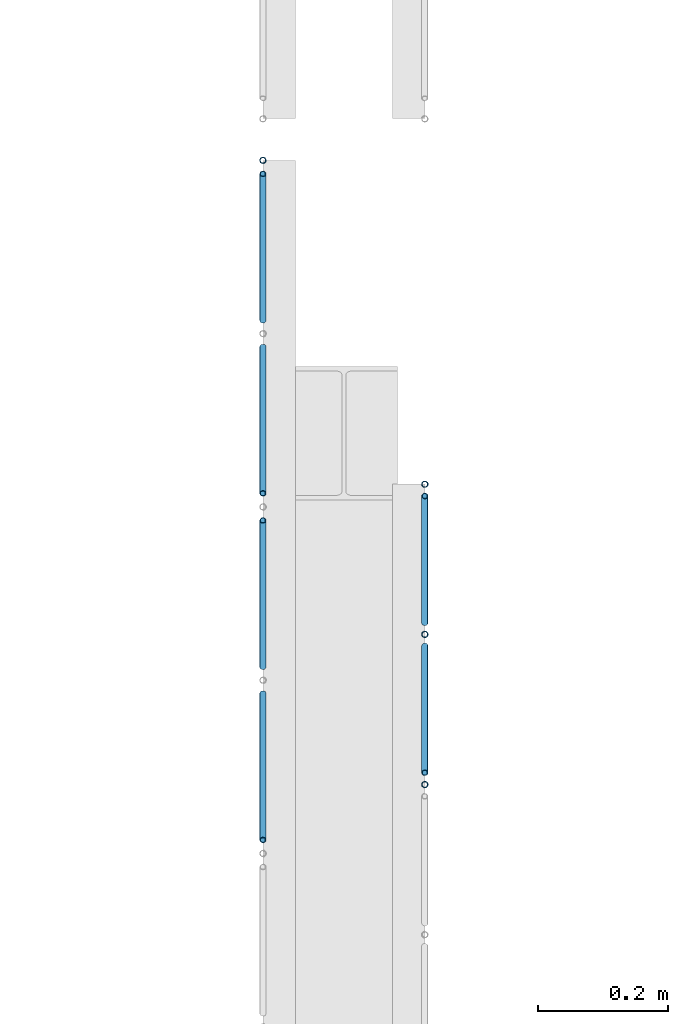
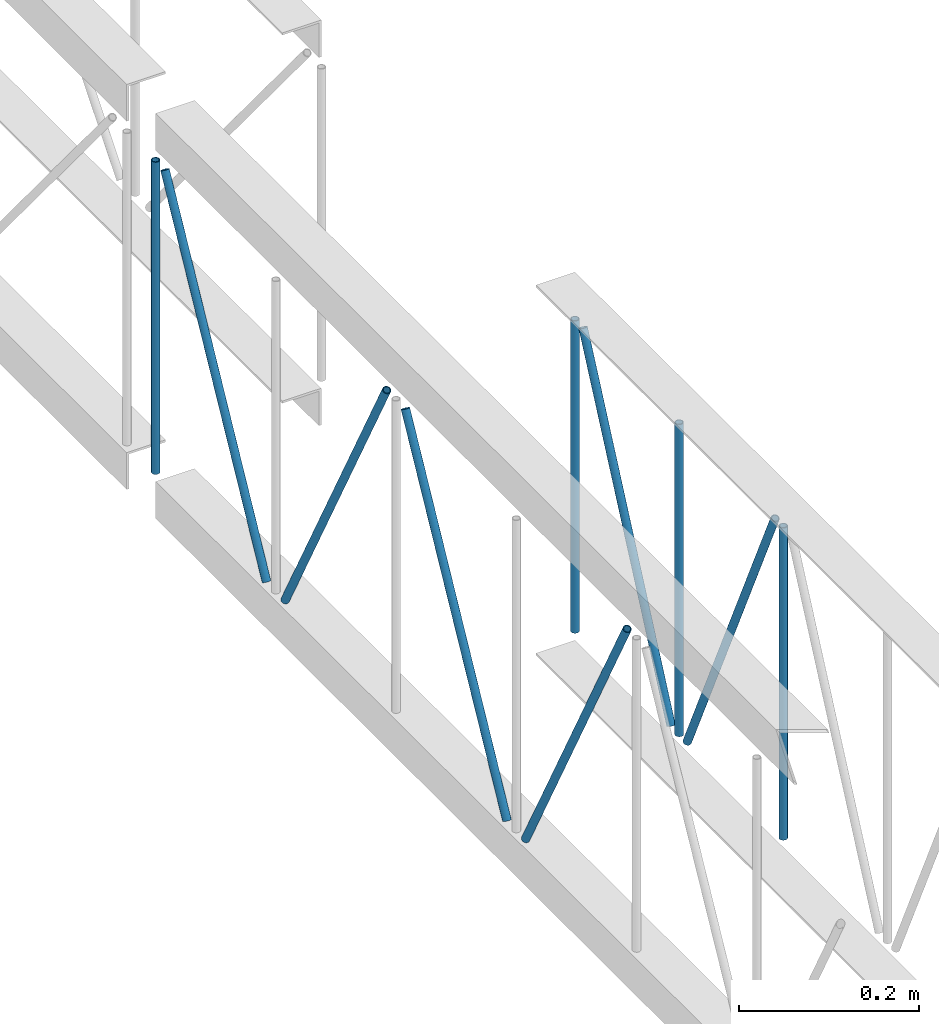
# One storey, part 42 of 153: 10 members, 2 elements without a shape of their own.
"""IFC4 building model written with IfcOpenShell, lengths in metres."""

from ifc_helpers import new_model, entity, si_unit, converted_unit, derived_unit, direction, frame, origin, place, context, subcontext, project, spatial, arc, indexed_curve, outline, extrude, source, transform, mapped, material, type_object, type_shapes, element, aggregate, save


model = new_model("IFC4")

# Units and contexts
model_context = context("Model", 3, precision=1e-05, world=origin(), true_north=direction((6.123031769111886e-17, 1.0)))
body_context = subcontext(model_context, "Body", "Model", "MODEL_VIEW")
ifc_project = project(units=[si_unit("LENGTHUNIT", "METRE"), si_unit("AREAUNIT", "SQUARE_METRE"), si_unit("VOLUMEUNIT", "CUBIC_METRE"), converted_unit("PLANEANGLEUNIT", "DEGREE", entity("IfcRatioMeasure", 0.017453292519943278), si_unit("PLANEANGLEUNIT", "RADIAN"), dimensions=[0, 0, 0, 0, 0, 0, 0]), si_unit("MASSUNIT", "GRAM", prefix="KILO"), derived_unit("MASSDENSITYUNIT", [(si_unit("MASSUNIT", "GRAM", prefix="KILO"), 1), (si_unit("LENGTHUNIT", "METRE"), -3)]), derived_unit("MOMENTOFINERTIAUNIT", [(si_unit("LENGTHUNIT", "METRE"), 4)]), si_unit("TIMEUNIT", "SECOND"), si_unit("FREQUENCYUNIT", "HERTZ"), si_unit("THERMODYNAMICTEMPERATUREUNIT", "DEGREE_CELSIUS"), derived_unit("THERMALTRANSMITTANCEUNIT", [(si_unit("MASSUNIT", "GRAM", prefix="KILO"), 1), (si_unit("THERMODYNAMICTEMPERATUREUNIT", "KELVIN"), -1), (si_unit("TIMEUNIT", "SECOND"), -3)]), derived_unit("VOLUMETRICFLOWRATEUNIT", [(si_unit("LENGTHUNIT", "METRE"), 3), (si_unit("TIMEUNIT", "SECOND"), -1)]), derived_unit("MASSFLOWRATEUNIT", [(si_unit("MASSUNIT", "GRAM", prefix="KILO"), 1), (si_unit("TIMEUNIT", "SECOND"), -1)]), derived_unit("ROTATIONALFREQUENCYUNIT", [(si_unit("TIMEUNIT", "SECOND"), -1)]), si_unit("ELECTRICCURRENTUNIT", "AMPERE"), si_unit("ELECTRICVOLTAGEUNIT", "VOLT"), si_unit("POWERUNIT", "WATT"), si_unit("FORCEUNIT", "NEWTON", prefix="KILO"), si_unit("ILLUMINANCEUNIT", "LUX"), si_unit("LUMINOUSFLUXUNIT", "LUMEN"), si_unit("LUMINOUSINTENSITYUNIT", "CANDELA"), derived_unit("USERDEFINED", [(si_unit("MASSUNIT", "GRAM", prefix="KILO"), -1), (si_unit("LENGTHUNIT", "METRE"), -2), (si_unit("TIMEUNIT", "SECOND"), 3), (si_unit("LUMINOUSFLUXUNIT", "LUMEN"), 1)]), derived_unit("SOUNDPOWERUNIT", [(si_unit("MASSUNIT", "GRAM", prefix="KILO"), 1), (si_unit("LENGTHUNIT", "METRE"), 2), (si_unit("TIMEUNIT", "SECOND"), -3)]), derived_unit("SOUNDPRESSUREUNIT", [(si_unit("MASSUNIT", "GRAM", prefix="KILO"), 1), (si_unit("LENGTHUNIT", "METRE"), -1), (si_unit("TIMEUNIT", "SECOND"), -2)]), derived_unit("LINEARVELOCITYUNIT", [(si_unit("LENGTHUNIT", "METRE"), 1), (si_unit("TIMEUNIT", "SECOND"), -1)]), si_unit("PRESSUREUNIT", "PASCAL"), derived_unit("USERDEFINED", [(si_unit("LENGTHUNIT", "METRE"), -2), (si_unit("MASSUNIT", "GRAM", prefix="KILO"), 1), (si_unit("TIMEUNIT", "SECOND"), -2)]), derived_unit("LINEARFORCEUNIT", [(si_unit("MASSUNIT", "GRAM", prefix="KILO"), 1), (si_unit("LENGTHUNIT", "METRE"), 1), (si_unit("TIMEUNIT", "SECOND"), -2), (si_unit("LENGTHUNIT", "METRE"), -1)]), derived_unit("PLANARFORCEUNIT", [(si_unit("MASSUNIT", "GRAM", prefix="KILO"), 1), (si_unit("LENGTHUNIT", "METRE"), 1), (si_unit("TIMEUNIT", "SECOND"), -2), (si_unit("LENGTHUNIT", "METRE"), -2)])], contexts=[model_context])

# Site, building, storey
site_placement = place(None, origin())
site = spatial("IfcSite", under=ifc_project, at=site_placement, Name="Superficie", CompositionType="ELEMENT")
building_placement = place(site_placement, origin())
building = spatial("IfcBuilding", under=site, at=building_placement, CompositionType="ELEMENT")
storey_placement = place(building_placement, frame((0.0, 0.0, 3.5999999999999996)))
storey = spatial("IfcBuildingStorey", under=building, at=storey_placement, Name="Nivel 1", CompositionType="ELEMENT", Elevation=3.5999999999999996)

# Assembly, member
assembly_1_placement = place(storey_placement, origin())
assembly_1 = element("IfcElementAssembly", 1, at=assembly_1_placement, inside=storey, Name="Viga de celosia 13:Viga de celosia 13", ObjectType="Viga de celosia 13:Viga de celosia 13", AssemblyPlace="NOTDEFINED", PredefinedType="TRUSS")
ifc_material = material(Name="Metal - Calibre delgado", Category="Metal")
member_type_1 = type_object("IfcMemberType", Name="HSS-Tubo estructural redondo:HSS 0.01", PredefinedType="BRACE", material=ifc_material)
shared_shape_1 = source(origin(), body_context, "Body", "SweptSolid", [
    extrude(outline(indexed_curve([(-0.005000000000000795, 7.502054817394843e-18), (-9.800269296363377e-18, -0.005000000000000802), (0.005000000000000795, -7.502054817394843e-18), (8.07772287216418e-18, 0.005000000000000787)], segments=[arc(1, 2, 3), arc(3, 4, 1)], self_intersect=False), holes=[indexed_curve([(0.003999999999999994, 7.222511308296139e-17), (6.910645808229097e-17, -0.004000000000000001), (-0.003999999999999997, -1.8650054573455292e-17), (-2.9156497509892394e-17, 0.003999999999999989)], segments=[arc(1, 2, 3), arc(3, 4, 1)], self_intersect=False)]), frame((-0.21200000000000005, 0.0, 0.0), z_axis=(1.0, 0.0, 0.0), x_axis=(0.0, 1.0, 0.0)), (0.0, 0.0, 1.0), 0.4240000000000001),
])
type_shapes(member_type_1, [shared_shape_1])
member_1_placement = place(assembly_1_placement, frame((-3.913200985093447, -9.198502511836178, 0.25), z_axis=(0.0, 1.0, 0.0), x_axis=(0.0, 0.0, 1.0)))
member_1 = element("IfcMember", 2, at=member_1_placement, type_object=member_type_1, material=ifc_material, Name="HSS-Tubo estructural redondo:HSS 0.01", ObjectType="HSS-Tubo estructural redondo:HSS 0.01", PredefinedType="BRACE", context=body_context, shape_type="MappedRepresentation", body=[
    mapped(shared_shape_1, transform((0.0, 0.0, 0.0), scale=1.0)),
])

# Assembly, members
assembly_2_placement = place(storey_placement, origin())
assembly_2 = element("IfcElementAssembly", 3, at=assembly_2_placement, inside=storey, Name="Viga de celosia 13:Viga de celosia 13", ObjectType="Viga de celosia 13:Viga de celosia 13", AssemblyPlace="NOTDEFINED", PredefinedType="TRUSS")
member_type_2 = type_object("IfcMemberType", Name="HSS-Tubo estructural redondo:HSS 0.01", PredefinedType="BRACE", material=ifc_material)
shared_shape_2 = source(origin(), body_context, "Body", "SweptSolid", [
    extrude(outline(indexed_curve([(-0.005000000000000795, 2.0824731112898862e-17), (-2.3122945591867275e-17, -0.005000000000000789), (0.005000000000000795, -2.08247311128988e-17), (2.14003991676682e-17, 0.005000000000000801)], segments=[arc(1, 2, 3), arc(3, 4, 1)], self_intersect=False), holes=[indexed_curve([(0.003999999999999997, -1.3094283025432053e-17), (-1.531427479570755e-18, -0.003999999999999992), (-0.004, 4.0098531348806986e-17), (4.1481388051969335e-17, 0.0039999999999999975)], segments=[arc(1, 2, 3), arc(3, 4, 1)], self_intersect=False)]), frame((-0.21200000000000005, 0.0, 0.0), z_axis=(1.0, 0.0, 0.0), x_axis=(0.0, -1.0, 0.0)), (0.0, 0.0, 1.0), 0.4240000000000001),
])
type_shapes(member_type_2, [shared_shape_2])
member_2_placement = place(assembly_2_placement, frame((-3.6632009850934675, -10.162073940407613, 0.25), z_axis=(0.0, 1.0, 0.0), x_axis=(0.0, 0.0, 1.0)))
member_2 = element("IfcMember", 4, at=member_2_placement, type_object=member_type_2, material=ifc_material, Name="HSS-Tubo estructural redondo:HSS 0.01", ObjectType="HSS-Tubo estructural redondo:HSS 0.01", PredefinedType="BRACE", context=body_context, shape_type="MappedRepresentation", body=[
    mapped(shared_shape_2, transform((0.0, 0.0, 0.0), scale=1.0)),
])
member_3_placement = place(assembly_2_placement, frame((-3.6632009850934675, -9.930288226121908, 0.25), z_axis=(0.0, 1.0, 0.0), x_axis=(0.0, 0.0, 1.0)))
member_3 = element("IfcMember", 5, at=member_3_placement, type_object=member_type_2, material=ifc_material, Name="HSS-Tubo estructural redondo:HSS 0.01", ObjectType="HSS-Tubo estructural redondo:HSS 0.01", PredefinedType="BRACE", context=body_context, shape_type="MappedRepresentation", body=[
    mapped(shared_shape_2, transform((0.0, 0.0, 0.0), scale=1.0)),
])
member_4_placement = place(assembly_2_placement, frame((-3.6632009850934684, -9.698502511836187, 0.25), z_axis=(0.0, 1.0, 0.0), x_axis=(0.0, 0.0, 1.0)))
member_4 = element("IfcMember", 6, at=member_4_placement, type_object=member_type_2, material=ifc_material, Name="HSS-Tubo estructural redondo:HSS 0.01", ObjectType="HSS-Tubo estructural redondo:HSS 0.01", PredefinedType="BRACE", context=body_context, shape_type="MappedRepresentation", body=[
    mapped(shared_shape_2, transform((0.0, 0.0, 0.0), scale=1.0)),
])

# Member
member_type_3 = type_object("IfcMemberType", Name="HSS-Tubo estructural redondo:HSS 0.01", PredefinedType="BRACE", material=ifc_material)
shared_shape_3 = source(origin(), body_context, "Body", "SweptSolid", [
    extrude(outline(indexed_curve([(-0.005000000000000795, 7.502054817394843e-18), (-9.800269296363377e-18, -0.005000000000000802), (0.005000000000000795, -7.502054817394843e-18), (8.07772287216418e-18, 0.005000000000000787)], segments=[arc(1, 2, 3), arc(3, 4, 1)], self_intersect=False), holes=[indexed_curve([(0.003999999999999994, 7.222511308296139e-17), (6.910645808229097e-17, -0.004000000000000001), (-0.003999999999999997, -1.8650054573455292e-17), (-2.9156497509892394e-17, 0.003999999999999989)], segments=[arc(1, 2, 3), arc(3, 4, 1)], self_intersect=False)]), frame((-0.23950000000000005, 0.0, 0.0), z_axis=(1.0, 0.0, 0.0), x_axis=(0.0, 1.0, 0.0)), (0.0, 0.0, 1.0), 0.4790000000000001),
])
type_shapes(member_type_3, [shared_shape_3])
member_5_placement = place(assembly_1_placement, frame((-3.9132009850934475, -10.13475251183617, 0.2500000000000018), z_axis=(0.0, -0.8817419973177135, -0.4717319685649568), x_axis=(0.0, 0.4717319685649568, -0.8817419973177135)))
member_5 = element("IfcMember", 7, at=member_5_placement, type_object=member_type_3, material=ifc_material, Name="HSS-Tubo estructural redondo:HSS 0.01", ObjectType="HSS-Tubo estructural redondo:HSS 0.01", PredefinedType="BRACE", context=body_context, shape_type="MappedRepresentation", body=[
    mapped(shared_shape_3, transform((0.0, 0.0, 0.0), scale=1.0)),
])

member_6_placement = place(assembly_1_placement, frame((-3.9132009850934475, -9.867252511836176, 0.25), z_axis=(0.0, 0.881741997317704, -0.47173196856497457), x_axis=(0.0, 0.47173196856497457, 0.881741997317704)))
member_6 = element("IfcMember", 8, at=member_6_placement, type_object=member_type_3, material=ifc_material, Name="HSS-Tubo estructural redondo:HSS 0.01", ObjectType="HSS-Tubo estructural redondo:HSS 0.01", PredefinedType="BRACE", context=body_context, shape_type="MappedRepresentation", body=[
    mapped(shared_shape_3, transform((0.0, 0.0, 0.0), scale=1.0)),
])

member_7_placement = place(assembly_1_placement, frame((-3.9132009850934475, -9.599752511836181, 0.24999999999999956), z_axis=(0.0, -0.881741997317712, -0.47173196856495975), x_axis=(0.0, 0.47173196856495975, -0.881741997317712)))
member_7 = element("IfcMember", 9, at=member_7_placement, type_object=member_type_3, material=ifc_material, Name="HSS-Tubo estructural redondo:HSS 0.01", ObjectType="HSS-Tubo estructural redondo:HSS 0.01", PredefinedType="BRACE", context=body_context, shape_type="MappedRepresentation", body=[
    mapped(shared_shape_3, transform((0.0, 0.0, 0.0), scale=1.0)),
])

member_8_placement = place(assembly_1_placement, frame((-3.9132009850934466, -9.33225251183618, 0.25), z_axis=(0.0, 0.8817419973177, -0.471731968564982), x_axis=(0.0, 0.471731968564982, 0.8817419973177)))
member_8 = element("IfcMember", 10, at=member_8_placement, type_object=member_type_3, material=ifc_material, Name="HSS-Tubo estructural redondo:HSS 0.01", ObjectType="HSS-Tubo estructural redondo:HSS 0.01", PredefinedType="BRACE", context=body_context, shape_type="MappedRepresentation", body=[
    mapped(shared_shape_3, transform((0.0, 0.0, 0.0), scale=1.0)),
])

aggregate(assembly_1, [member_1, member_5, member_6, member_7, member_8])

member_type_4 = type_object("IfcMemberType", Name="HSS-Tubo estructural redondo:HSS 0.01", PredefinedType="BRACE", material=ifc_material)
shared_shape_4 = source(origin(), body_context, "Body", "SweptSolid", [
    extrude(outline(indexed_curve([(-0.005000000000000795, 2.0824731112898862e-17), (-2.3122945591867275e-17, -0.005000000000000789), (0.005000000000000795, -2.08247311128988e-17), (2.14003991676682e-17, 0.005000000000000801)], segments=[arc(1, 2, 3), arc(3, 4, 1)], self_intersect=False), holes=[indexed_curve([(0.003999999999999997, -1.3094283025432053e-17), (-1.531427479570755e-18, -0.003999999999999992), (-0.004, 4.0098531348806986e-17), (4.1481388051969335e-17, 0.0039999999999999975)], segments=[arc(1, 2, 3), arc(3, 4, 1)], self_intersect=False)]), frame((-0.2325, 0.0, 0.0), z_axis=(1.0, 0.0, 0.0), x_axis=(0.0, -1.0, 0.0)), (0.0, 0.0, 1.0), 0.465),
])
type_shapes(member_type_4, [shared_shape_4])
member_9_placement = place(assembly_2_placement, frame((-3.6632009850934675, -10.046181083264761, 0.25), z_axis=(0.0, -0.9072563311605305, -0.42057811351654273), x_axis=(0.0, 0.42057811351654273, -0.9072563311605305)))
member_9 = element("IfcMember", 11, at=member_9_placement, type_object=member_type_4, material=ifc_material, Name="HSS-Tubo estructural redondo:HSS 0.01", ObjectType="HSS-Tubo estructural redondo:HSS 0.01", PredefinedType="BRACE", context=body_context, shape_type="MappedRepresentation", body=[
    mapped(shared_shape_4, transform((0.0, 0.0, 0.0), scale=1.0)),
])

member_10_placement = place(assembly_2_placement, frame((-3.6632009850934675, -9.814395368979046, 0.24999999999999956), z_axis=(0.0, 0.9072563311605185, -0.4205781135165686), x_axis=(0.0, 0.4205781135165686, 0.9072563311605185)))
member_10 = element("IfcMember", 12, at=member_10_placement, type_object=member_type_4, material=ifc_material, Name="HSS-Tubo estructural redondo:HSS 0.01", ObjectType="HSS-Tubo estructural redondo:HSS 0.01", PredefinedType="BRACE", context=body_context, shape_type="MappedRepresentation", body=[
    mapped(shared_shape_4, transform((0.0, 0.0, 0.0), scale=1.0)),
])

aggregate(assembly_2, [member_2, member_3, member_4, member_9, member_10])

save(model, "model.ifc")
